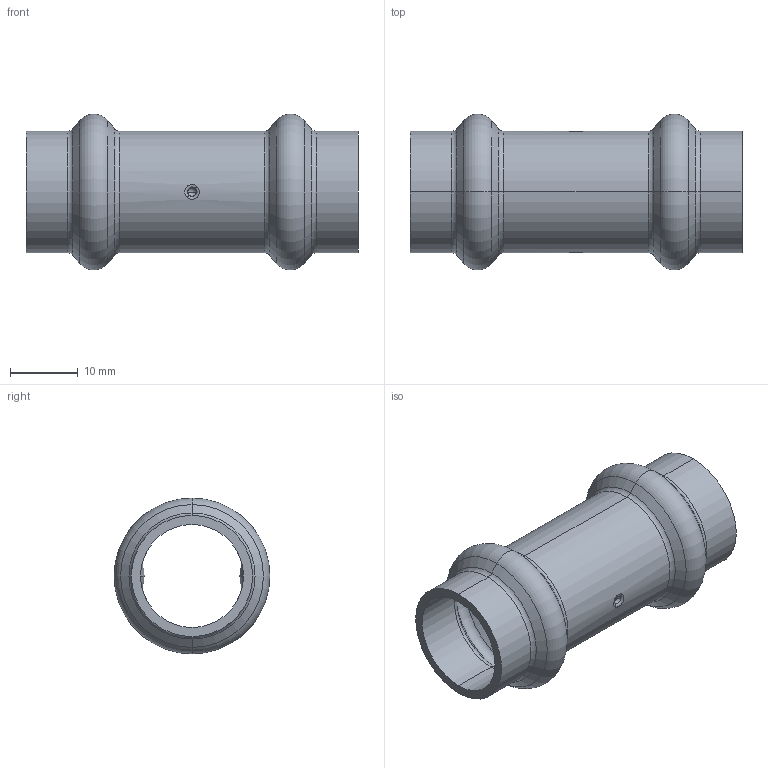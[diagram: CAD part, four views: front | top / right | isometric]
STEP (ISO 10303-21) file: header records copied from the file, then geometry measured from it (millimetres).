
FILE_DESCRIPTION (( 'STEP AP203' ), '1' );
FILE_NAME ('SP5270 15.STEP', '2017-04-24T09:17:38', ( '' ), ( '' ), 'SwSTEP 2.0', 'SolidWorks 2016', '' );
FILE_SCHEMA (( 'CONFIG_CONTROL_DESIGN' ));
Length unit declared in the file: millimetre
Products named in the file (1): SP5270 15
Bounding box: 49 x 23 x 23 mm (x, y, z)
Volume: 3959.1 mm3; surface area: 5970.1 mm2
Topology: 1 solids, 1 shells, 66 faces, 136 edges, 76 vertices
Faces by surface type: torus 24, cone 16, cylinder 12, sphere 8, bspline 4, plane 2
Entity records: 2189 total; most frequent: CARTESIAN_POINT 695, DIRECTION 338, ORIENTED_EDGE 272, AXIS2_PLACEMENT_3D 155, EDGE_CURVE 136, CIRCLE 92, VERTEX_POINT 76, EDGE_LOOP 72
